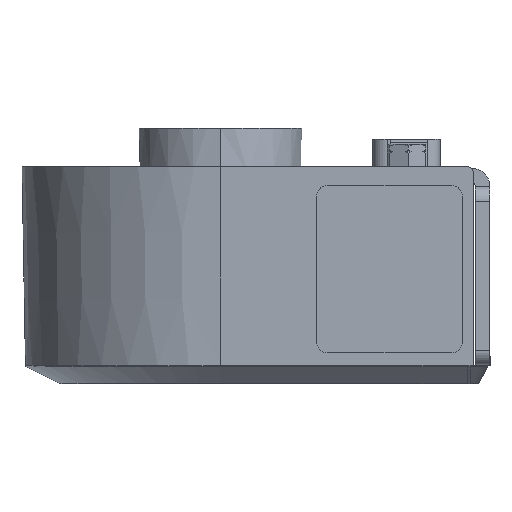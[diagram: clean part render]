
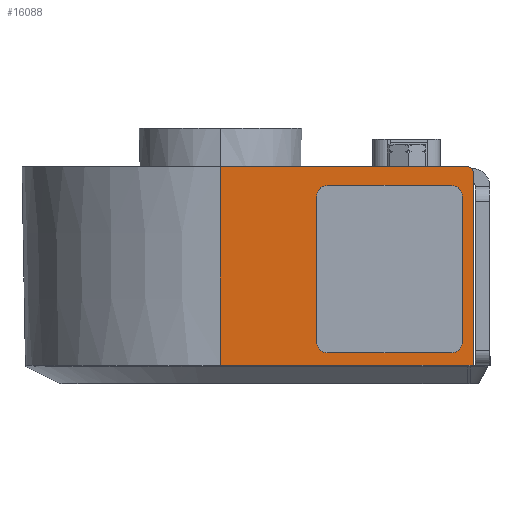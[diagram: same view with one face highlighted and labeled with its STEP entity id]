
A CAD part, left-side view. The second image highlights one B-rep face of the part: STEP entity #16088.
In plain terms, the highlighted planar face has unit normal (-1, 0, -0.018).
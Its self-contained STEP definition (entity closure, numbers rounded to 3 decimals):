
#50 = DIRECTION ( 'NONE',  ( -1., 0., -0.017 ) ) ;
#163 = PLANE ( 'NONE',  #5336 ) ;
#285 = DIRECTION ( 'NONE',  ( 0.017, 0., -1. ) ) ;
#1679 = EDGE_CURVE ( 'NONE', #17810, #13631, #18996, .T. ) ;
#2017 = CARTESIAN_POINT ( 'NONE',  ( -26.775, 0., -27. ) ) ;
#2947 = EDGE_CURVE ( 'NONE', #12547, #8419, #3033, .T. ) ;
#3033 =( BOUNDED_CURVE ( )  B_SPLINE_CURVE ( 3, ( #11189, #20080, #4427, #11411 ),
 .UNSPECIFIED., .F., .F. ) 
 B_SPLINE_CURVE_WITH_KNOTS ( ( 4, 4 ),
 ( 0., 1.571 ),
 .UNSPECIFIED. ) 
 CURVE ( )  GEOMETRIC_REPRESENTATION_ITEM ( )  RATIONAL_B_SPLINE_CURVE ( ( 1., 0.805, 0.805, 1. ) ) 
 REPRESENTATION_ITEM ( '' )  );
#3531 = VECTOR ( 'NONE', #4478, 1000. ) ;
#3627 = CARTESIAN_POINT ( 'NONE',  ( -27.012, -34.7, -13.4 ) ) ;
#4427 = CARTESIAN_POINT ( 'NONE',  ( -27.245, -34.7, -0.111 ) ) ;
#4478 = DIRECTION ( 'NONE',  ( 0., -1., 0. ) ) ;
#5336 = AXIS2_PLACEMENT_3D ( 'NONE', #20826, #50, #285 ) ;
#6946 = EDGE_CURVE ( 'NONE', #13767, #10215, #19892, .T. ) ;
#7236 = CARTESIAN_POINT ( 'NONE',  ( -26.775, 0., -27. ) ) ;
#7464 = B_SPLINE_CURVE_WITH_KNOTS ( 'NONE', 1,
 ( #21537, #2017 ),
 .UNSPECIFIED., .F., .F.,
 ( 2, 2 ),
 ( 0.046, 1. ),
 .UNSPECIFIED. ) ;
#7700 = CARTESIAN_POINT ( 'NONE',  ( -27.25, -17.35, 0.2 ) ) ;
#8139 = LINE ( 'NONE', #7700, #3531 ) ;
#8419 = VERTEX_POINT ( 'NONE', #17453 ) ;
#8662 = B_SPLINE_CURVE_WITH_KNOTS ( 'NONE', 1,
 ( #12389, #10565 ),
 .UNSPECIFIED., .F., .F.,
 ( 2, 2 ),
 ( 0.035, 0.046 ),
 .UNSPECIFIED. ) ;
#8772 = CARTESIAN_POINT ( 'NONE',  ( -27.092, 0., -8.867 ) ) ;
#10215 = VERTEX_POINT ( 'NONE', #21678 ) ;
#10254 = CARTESIAN_POINT ( 'NONE',  ( -26.933, 0., -17.933 ) ) ;
#10421 = ORIENTED_EDGE ( 'NONE', *, *, #1679, .F. ) ;
#10565 = CARTESIAN_POINT ( 'NONE',  ( -26.775, -33.858, -27. ) ) ;
#11189 = CARTESIAN_POINT ( 'NONE',  ( -27.25, -33.95, 0.2 ) ) ;
#11411 = CARTESIAN_POINT ( 'NONE',  ( -27.237, -34.7, -0.55 ) ) ;
#12389 = CARTESIAN_POINT ( 'NONE',  ( -26.775, -34.258, -27. ) ) ;
#12421 = DIRECTION ( 'NONE',  ( 0.017, 0., -1. ) ) ;
#12547 = VERTEX_POINT ( 'NONE', #14477 ) ;
#12652 = LINE ( 'NONE', #3627, #16350 ) ;
#13631 = VERTEX_POINT ( 'NONE', #20605 ) ;
#13694 = CARTESIAN_POINT ( 'NONE',  ( -26.775, 0., -27. ) ) ;
#13767 = VERTEX_POINT ( 'NONE', #7236 ) ;
#14115 = ORIENTED_EDGE ( 'NONE', *, *, #19118, .F. ) ;
#14477 = CARTESIAN_POINT ( 'NONE',  ( -27.25, -33.95, 0.2 ) ) ;
#14741 = ORIENTED_EDGE ( 'NONE', *, *, #17808, .F. ) ;
#15703 = FACE_OUTER_BOUND ( 'NONE', #20749, .T. ) ;
#16088 = ADVANCED_FACE ( 'NONE', ( #15703 ), #163, .T. ) ;
#16093 = EDGE_CURVE ( 'NONE', #13631, #18119, #8662, .T. ) ;
#16350 = VECTOR ( 'NONE', #12421, 1000. ) ;
#16500 = CARTESIAN_POINT ( 'NONE',  ( -26.775, -34.258, -27. ) ) ;
#17453 = CARTESIAN_POINT ( 'NONE',  ( -27.237, -34.7, -0.55 ) ) ;
#17808 = EDGE_CURVE ( 'NONE', #8419, #17810, #12652, .T. ) ;
#17810 = VERTEX_POINT ( 'NONE', #19491 ) ;
#17828 = ORIENTED_EDGE ( 'NONE', *, *, #20944, .F. ) ;
#18119 = VERTEX_POINT ( 'NONE', #21485 ) ;
#18994 = ORIENTED_EDGE ( 'NONE', *, *, #2947, .F. ) ;
#18996 = B_SPLINE_CURVE_WITH_KNOTS ( 'NONE', 1,
 ( #19803, #16500 ),
 .UNSPECIFIED., .F., .F.,
 ( 2, 2 ),
 ( 0.022, 0.035 ),
 .UNSPECIFIED. ) ;
#19068 = ORIENTED_EDGE ( 'NONE', *, *, #16093, .F. ) ;
#19118 = EDGE_CURVE ( 'NONE', #18119, #13767, #7464, .T. ) ;
#19281 = CARTESIAN_POINT ( 'NONE',  ( -27.25, 0., 0.2 ) ) ;
#19491 = CARTESIAN_POINT ( 'NONE',  ( -26.775, -34.7, -27. ) ) ;
#19803 = CARTESIAN_POINT ( 'NONE',  ( -26.775, -34.7, -27. ) ) ;
#19892 = B_SPLINE_CURVE_WITH_KNOTS ( 'NONE', 3,
 ( #13694, #10254, #8772, #19281 ),
 .UNSPECIFIED., .F., .F.,
 ( 4, 4 ),
 ( 0., 1. ),
 .UNSPECIFIED. ) ;
#20080 = CARTESIAN_POINT ( 'NONE',  ( -27.25, -34.389, 0.2 ) ) ;
#20391 = ORIENTED_EDGE ( 'NONE', *, *, #6946, .F. ) ;
#20605 = CARTESIAN_POINT ( 'NONE',  ( -26.775, -34.258, -27. ) ) ;
#20749 = EDGE_LOOP ( 'NONE', ( #17828, #20391, #14115, #19068, #10421, #14741, #18994 ) ) ;
#20826 = CARTESIAN_POINT ( 'NONE',  ( -27.25, -34.7, 0.2 ) ) ;
#20944 = EDGE_CURVE ( 'NONE', #10215, #12547, #8139, .T. ) ;
#21485 = CARTESIAN_POINT ( 'NONE',  ( -26.775, -33.858, -27. ) ) ;
#21537 = CARTESIAN_POINT ( 'NONE',  ( -26.775, -33.858, -27. ) ) ;
#21678 = CARTESIAN_POINT ( 'NONE',  ( -27.25, 0., 0.2 ) ) ;
